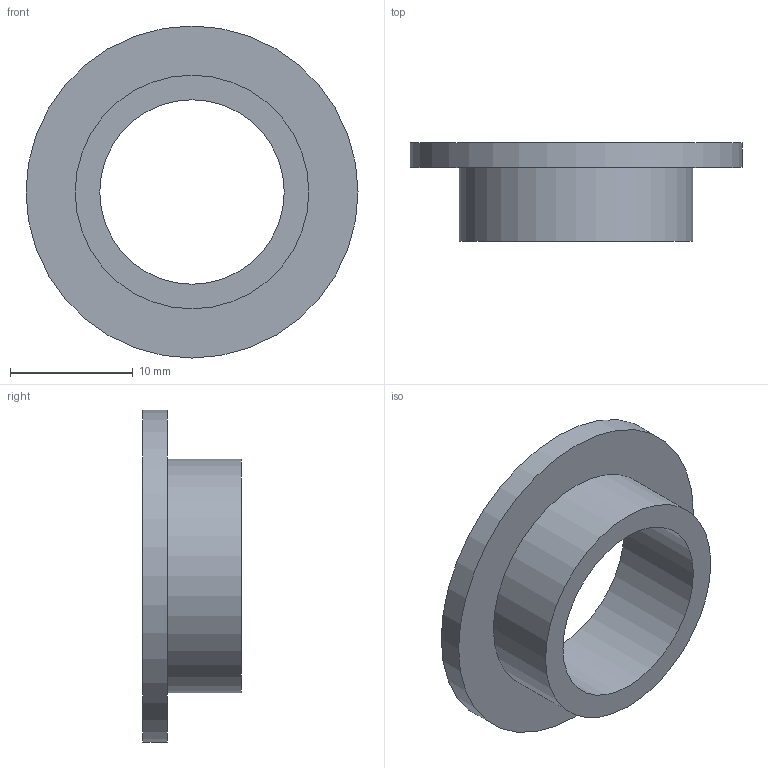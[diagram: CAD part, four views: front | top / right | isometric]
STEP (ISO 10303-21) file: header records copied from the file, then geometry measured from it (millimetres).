
FILE_DESCRIPTION(/* description */ (''),/* implementation_level */ '2;1');
FILE_NAME(/* name */ 'Bushing.stp',/* time_stamp */ '2026-04-29T15:00:12+07:00',/* author */ ('dadan'),/* organization */ (''),/* preprocessor_version */ 'ST-DEVELOPER v20.1',/* originating_system */ 'Autodesk Inventor 2026',/* authorisation */ '');
FILE_SCHEMA (('AUTOMOTIVE_DESIGN { 1 0 10303 214 3 1 1 }'));
Length unit declared in the file: millimetre
Products named in the file (1): Dudukan
Bounding box: 27 x 8 x 27 mm (x, y, z)
Volume: 1432.6 mm3; surface area: 1696.5 mm2
Topology: 1 solids, 1 shells, 6 faces, 9 edges, 6 vertices
Faces by surface type: cylinder 3, plane 3
Full cylindrical faces by diameter (mm): 15 x1, 19 x1, 27 x1
Entity records: 186 total; most frequent: DIRECTION 29, CARTESIAN_POINT 22, ORIENTED_EDGE 18, AXIS2_PLACEMENT_3D 13, EDGE_LOOP 9, EDGE_CURVE 9, FACE_OUTER_BOUND 6, CIRCLE 6
